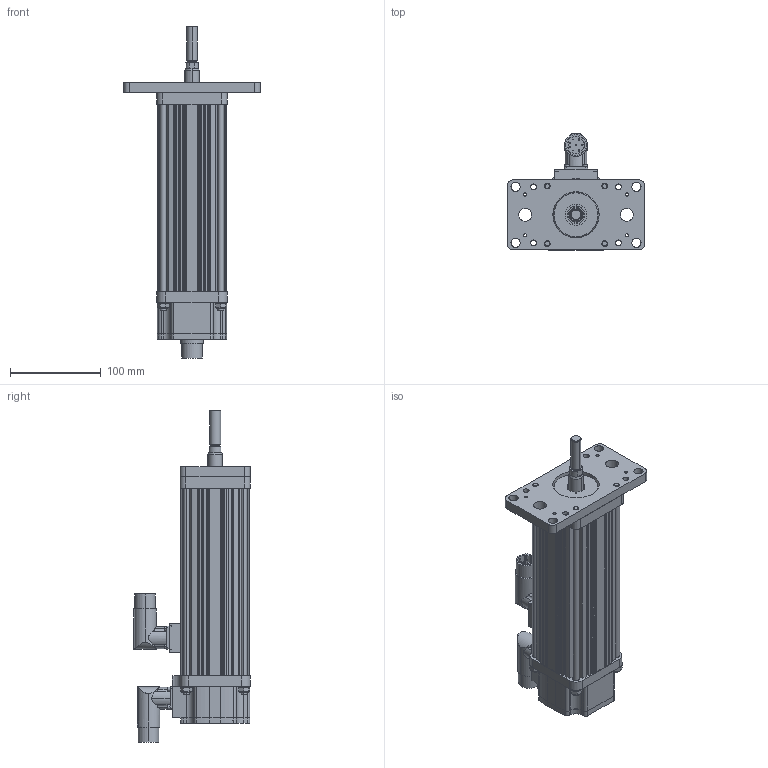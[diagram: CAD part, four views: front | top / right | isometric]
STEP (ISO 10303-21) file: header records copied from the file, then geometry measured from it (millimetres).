
FILE_DESCRIPTION (( 'STEP AP203' ), '1' );
FILE_NAME ('GSM30-6 inch Front Flange, Euro Conn, A Rod.step', '2008-06-14T07:31:21', ( 'SaharaKiran' ), ( 'I2T2' ), 'SwSTEP 2.0', 'SolidWorks 2008', '' );
FILE_SCHEMA (( 'CONFIG_CONTROL_DESIGN' ));
Length unit declared in the file: inch
Products named in the file (16): GSM30-6 inch Front Flange, Euro Conn, A Rod; 10513; Tie Rod_10540-6"; 20494; End cap_Front Flange, Euro; 26428; 11247; 10647; 25610; MAIN ROD GSX30_A MAIN ROD -6"; case_6"; End Cap_27687-EURO; 12367; 19819; 23017; 11248
Assembly tree (36 placements, depth 3):
  GSM30-6 inch Front Flange, Euro Conn, A Rod
    23017
    25610
    Tie Rod_10540-6"  x4
    12367  x4
    11248  x4
    11247  x4
    19819
    End cap_Front Flange, Euro
      12367  x8
      End Cap_27687-EURO
      26428
      20494
    10647
    case_6"
    10513  x2
    MAIN ROD GSX30_A MAIN ROD -6"
Bounding box: 150.88 x 128.48 x 366.11 mm (x, y, z)
Volume: 839780.5 mm3; surface area: 310002 mm2
Topology: 35 solids, 35 shells, 1058 faces, 2565 edges, 1625 vertices
Faces by surface type: cylinder 511, plane 348, cone 169, torus 30
Entity records: 26020 total; most frequent: CARTESIAN_POINT 4749, DIRECTION 4318, ORIENTED_EDGE 3726, EDGE_CURVE 1863, AXIS2_PLACEMENT_3D 1723, VERTEX_POINT 1213, CIRCLE 933, EDGE_LOOP 932
